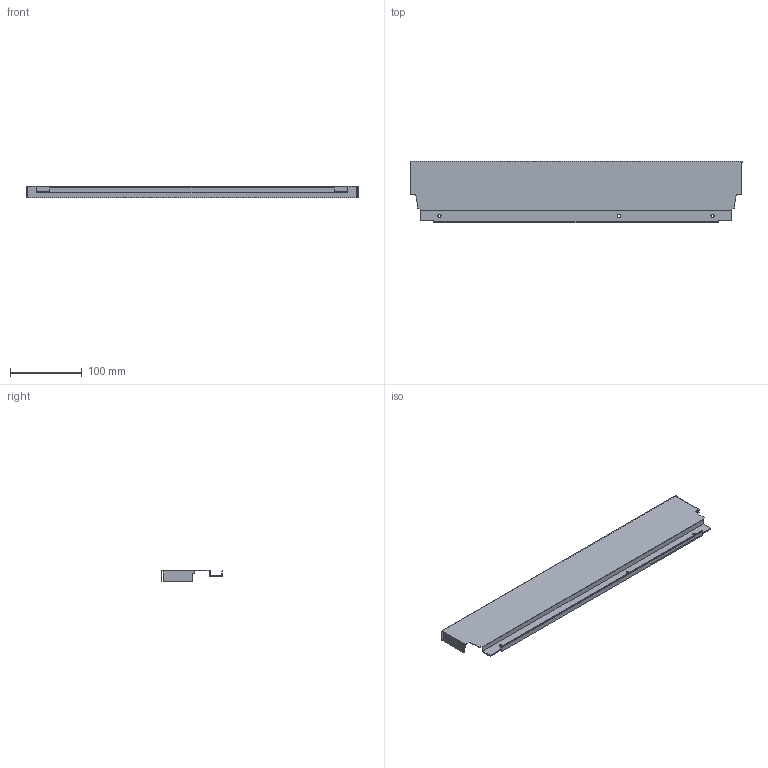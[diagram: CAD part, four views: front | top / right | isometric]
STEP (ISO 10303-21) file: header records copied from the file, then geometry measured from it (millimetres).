
FILE_DESCRIPTION (( 'STEP AP214' ), '1' );
FILE_NAME ('_DWD_XP Stahlrückwand_H86_KAB550_S19.step', '2010-07-08T12:10:33', ( 'grass' ), ( '' ), 'SwSTEP 2.0', 'SolidWorks 2010', '' );
FILE_SCHEMA (( 'AUTOMOTIVE_DESIGN' ));
Length unit declared in the file: millimetre
Products named in the file (1): _DWD_XP Stahlrückwand_H86_KAB550_S19
Bounding box: 463 x 85.79 x 16 mm (x, y, z)
Volume: 49169.2 mm3; surface area: 107352.9 mm2
Topology: 1 solids, 1 shells, 50 faces, 144 edges, 96 vertices
Faces by surface type: plane 44, cylinder 6
Entity records: 1666 total; most frequent: CARTESIAN_POINT 291, ORIENTED_EDGE 288, DIRECTION 258, EDGE_CURVE 144, VECTOR 132, LINE 132, VERTEX_POINT 96, AXIS2_PLACEMENT_3D 63
